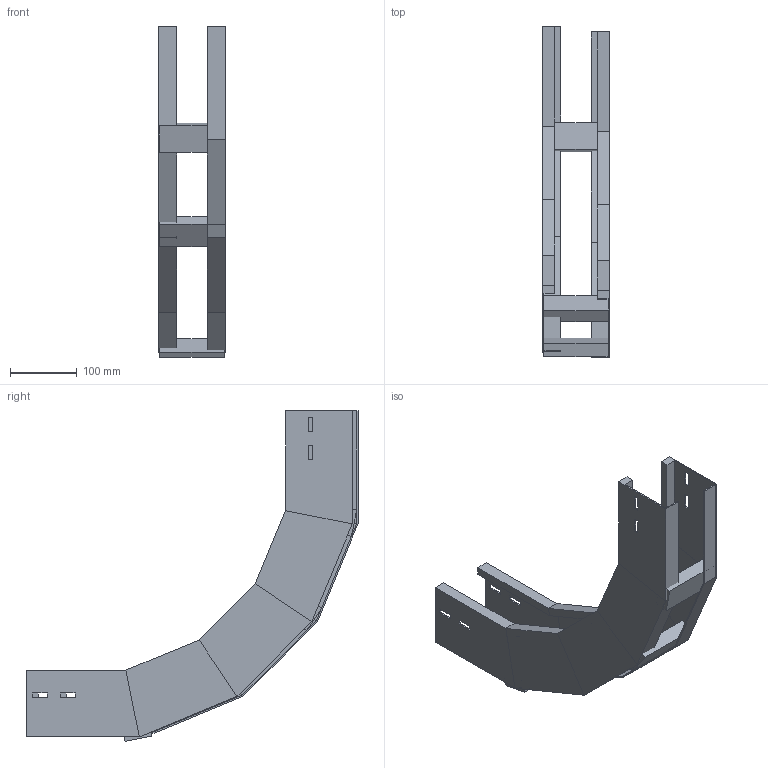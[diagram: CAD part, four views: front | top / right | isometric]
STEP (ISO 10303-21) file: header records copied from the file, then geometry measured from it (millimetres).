
FILE_DESCRIPTION (( 'STEP AP214' ), '1' );
FILE_NAME ('A2X30B3D100XX.step', '2025-04-02T08:52:57', ( '' ), ( '' ), 'SwSTEP 2.0', 'SolidWorks 2023', '' );
FILE_SCHEMA (( 'AUTOMOTIVE_DESIGN' ));
Length unit declared in the file: millimetre
Products named in the file (3): A2X30B3D100XX; LONGH.SALITA_90°_H100_R300; TRAVERSINO_100
Assembly tree (5 placements, depth 2):
  A2X30B3D100XX
    LONGH.SALITA_90°_H100_R300  x2
    TRAVERSINO_100  x3
Bounding box: 100 x 497.32 x 495.32 mm (x, y, z)
Volume: 861586.2 mm3; surface area: 463753.5 mm2
Topology: 5 solids, 5 shells, 134 faces, 308 edges, 184 vertices
Faces by surface type: plane 134
Entity records: 1864 total; most frequent: CARTESIAN_POINT 308, ORIENTED_EDGE 296, DIRECTION 292, LINE 148, EDGE_CURVE 148, VECTOR 148, VERTEX_POINT 88, EDGE_LOOP 72
